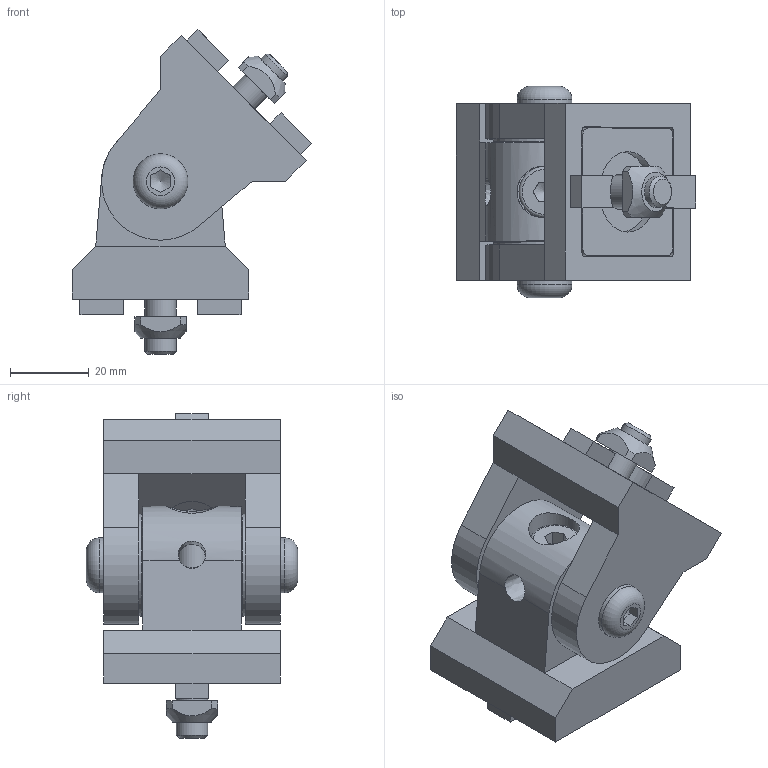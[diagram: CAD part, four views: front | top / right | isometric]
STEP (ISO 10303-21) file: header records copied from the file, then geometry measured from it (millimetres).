
FILE_DESCRIPTION((''),'2;1');
FILE_NAME('C:\Documents and Settings\Administrator\My Documents\Andys Backup Data\ANDY''S INVENTOR\INVENTOR LIBRARIES\MINITEC INVENTOR LIBRARIES\LINKS AND HINGES\A PACKED FILES\STEP FILES\21.2030 LINK.stp','2010-06-24T15:07:39',('Administrator'),(''),'Autodesk Inventor 2009','Autodesk Inventor 2009','');
FILE_SCHEMA(('AUTOMOTIVE_DESIGN { 1 0 10303 214 1 1 1 1 }'));
Length unit declared in the file: millimetre
Products named in the file (9): 21.2030 LINK; 21.2030 LINK FLANGED BUSHING; 21.2030 LINK AL BLOCK OUTER; 21.2030 LINK ALUMINUM BLOCK INNER; BUTTON HEAD CAP SCREW M8X16; ANTI-ROTATION DEVICE; 21.1212 M8 x 50; 21.1202  M8 x 20; 21.1351 M8 SQUARE NUT
Assembly tree (12 placements, depth 2):
  21.2030 LINK
    21.2030 LINK FLANGED BUSHING  x2
    21.2030 LINK AL BLOCK OUTER
    21.2030 LINK ALUMINUM BLOCK INNER
    BUTTON HEAD CAP SCREW M8X16  x2
    ANTI-ROTATION DEVICE  x2
    21.1212 M8 x 50
    21.1202  M8 x 20
    21.1351 M8 SQUARE NUT  x2
Bounding box: 61.04 x 53.8 x 82.54 mm (x, y, z)
Volume: 88861.2 mm3; surface area: 36040.9 mm2
Topology: 12 solids, 12 shells, 205 faces, 503 edges, 326 vertices
Faces by surface type: plane 141, cylinder 48, cone 10, torus 4, bspline 2
Full cylindrical faces by diameter (mm): 8 x8, 9 x4, 9.5 x4, 10 x2, 13 x5, 14 x2, 20.5 x2, 26 x2
Entity records: 4990 total; most frequent: CARTESIAN_POINT 1234, DIRECTION 710, ORIENTED_EDGE 658, EDGE_CURVE 329, AXIS2_PLACEMENT_3D 253, VERTEX_POINT 231, EDGE_LOOP 210, VECTOR 204
